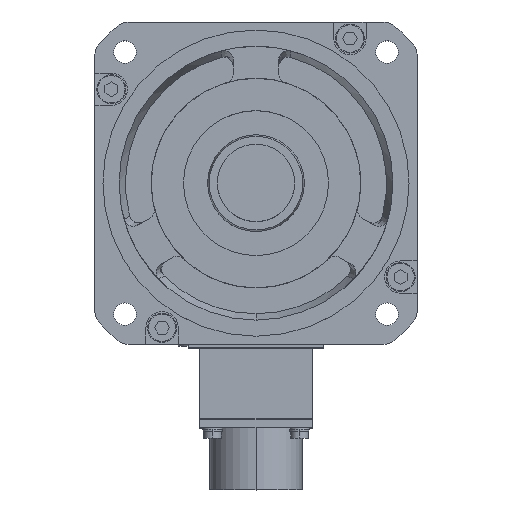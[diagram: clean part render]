
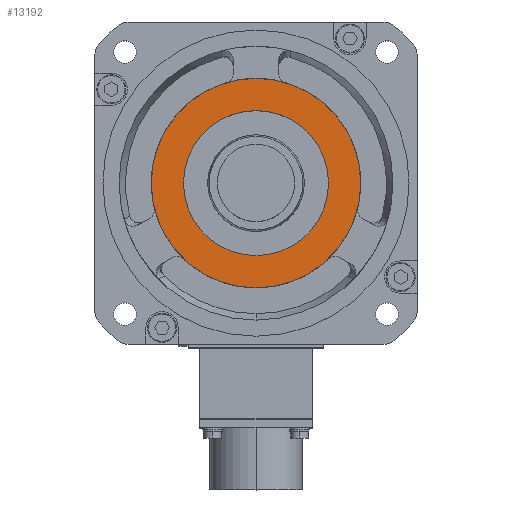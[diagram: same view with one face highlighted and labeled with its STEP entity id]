
A CAD part, top view. The second image highlights one B-rep face of the part: STEP entity #13192.
In plain terms, the highlighted planar face has unit normal (0, 0, 1).
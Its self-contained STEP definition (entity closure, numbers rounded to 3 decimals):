
#44 = VERTEX_POINT ( 'NONE', #2319 ) ;
#45 = VERTEX_POINT ( 'NONE', #2318 ) ;
#129 = EDGE_CURVE ( 'NONE', #44, #45, #2519, .T. ) ;
#2089 = VERTEX_POINT ( 'NONE', #5997 ) ;
#2148 = EDGE_CURVE ( 'NONE', #2089, #2149, #6145, .T. ) ;
#2149 = VERTEX_POINT ( 'NONE', #6140 ) ;
#2167 = EDGE_CURVE ( 'NONE', #45, #44, #6177, .T. ) ;
#2318 = CARTESIAN_POINT ( 'NONE',  ( 0., -32.5, 3.5 ) ) ;
#2319 = CARTESIAN_POINT ( 'NONE',  ( 0., 32.5, 3.5 ) ) ;
#2465 = CARTESIAN_POINT ( 'NONE',  ( 0., 0., 3.5 ) ) ;
#2516 = DIRECTION ( 'NONE',  ( 0., 1., 0. ) ) ;
#2517 = DIRECTION ( 'NONE',  ( 0., 0., -1. ) ) ;
#2518 = AXIS2_PLACEMENT_3D ( 'NONE', #2465, #2517, #2516 ) ;
#2519 = CIRCLE ( 'NONE', #2518, 32.5 ) ;
#5997 = CARTESIAN_POINT ( 'NONE',  ( -22.5, 0., 3.5 ) ) ;
#6140 = CARTESIAN_POINT ( 'NONE',  ( 22.5, 0., 3.5 ) ) ;
#6141 = DIRECTION ( 'NONE',  ( 1., 0., 0. ) ) ;
#6142 = DIRECTION ( 'NONE',  ( 0., 0., 1. ) ) ;
#6143 = CARTESIAN_POINT ( 'NONE',  ( 0., 0., 3.5 ) ) ;
#6144 = AXIS2_PLACEMENT_3D ( 'NONE', #6143, #6142, #6141 ) ;
#6145 = CIRCLE ( 'NONE', #6144, 22.5 ) ;
#6173 = DIRECTION ( 'NONE',  ( 0., 1., 0. ) ) ;
#6174 = DIRECTION ( 'NONE',  ( 0., 0., -1. ) ) ;
#6175 = CARTESIAN_POINT ( 'NONE',  ( 0., 0., 3.5 ) ) ;
#6176 = AXIS2_PLACEMENT_3D ( 'NONE', #6175, #6174, #6173 ) ;
#6177 = CIRCLE ( 'NONE', #6176, 32.5 ) ;
#13192 = ADVANCED_FACE ( 'NONE', ( #18463, #18462 ), #18461, .T. ) ;
#13193 = EDGE_LOOP ( 'NONE', ( #13194, #13196 ) ) ;
#13194 = ORIENTED_EDGE ( 'NONE', *, *, #13195, .F. ) ;
#13195 = EDGE_CURVE ( 'NONE', #2149, #2089, #18456, .T. ) ;
#13196 = ORIENTED_EDGE ( 'NONE', *, *, #2148, .F. ) ;
#13197 = EDGE_LOOP ( 'NONE', ( #13198, #13199 ) ) ;
#13198 = ORIENTED_EDGE ( 'NONE', *, *, #129, .F. ) ;
#13199 = ORIENTED_EDGE ( 'NONE', *, *, #2167, .F. ) ;
#18452 = DIRECTION ( 'NONE',  ( 1., 0., 0. ) ) ;
#18453 = DIRECTION ( 'NONE',  ( 0., 0., 1. ) ) ;
#18454 = CARTESIAN_POINT ( 'NONE',  ( 0., 0., 3.5 ) ) ;
#18455 = AXIS2_PLACEMENT_3D ( 'NONE', #18454, #18453, #18452 ) ;
#18456 = CIRCLE ( 'NONE', #18455, 22.5 ) ;
#18457 = DIRECTION ( 'NONE',  ( 1., 0., 0. ) ) ;
#18458 = DIRECTION ( 'NONE',  ( 0., 0., 1. ) ) ;
#18459 = CARTESIAN_POINT ( 'NONE',  ( 0., 0., 3.5 ) ) ;
#18460 = AXIS2_PLACEMENT_3D ( 'NONE', #18459, #18458, #18457 ) ;
#18461 = PLANE ( 'NONE',  #18460 ) ;
#18462 = FACE_OUTER_BOUND ( 'NONE', #13197, .T. ) ;
#18463 = FACE_BOUND ( 'NONE', #13193, .T. ) ;
